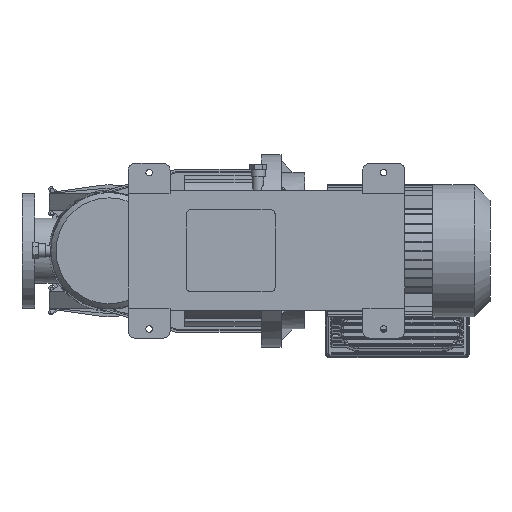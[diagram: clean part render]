
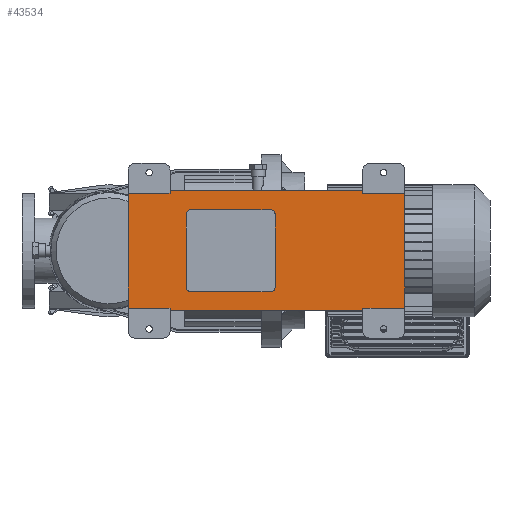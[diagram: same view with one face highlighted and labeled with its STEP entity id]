
A CAD part, front view. The second image highlights one B-rep face of the part: STEP entity #43534.
In plain terms, the highlighted planar face has unit normal (0, -1, 0).
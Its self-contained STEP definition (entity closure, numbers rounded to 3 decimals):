
#3443=LINE('',#69402,#6460);
#3451=LINE('',#69419,#6468);
#3458=LINE('',#69433,#6475);
#3477=LINE('',#69474,#6494);
#3487=LINE('',#69494,#6504);
#3488=LINE('',#69499,#6505);
#3489=LINE('',#69503,#6506);
#3490=LINE('',#69507,#6507);
#3491=LINE('',#69510,#6508);
#3492=LINE('',#69512,#6509);
#3493=LINE('',#69513,#6510);
#3494=LINE('',#69515,#6511);
#3495=LINE('',#69516,#6512);
#3496=LINE('',#69518,#6513);
#3497=LINE('',#69519,#6514);
#3498=LINE('',#69521,#6515);
#6460=VECTOR('',#54343,1000.);
#6468=VECTOR('',#54353,1000.);
#6475=VECTOR('',#54362,1000.);
#6494=VECTOR('',#54389,1000.);
#6504=VECTOR('',#54403,1000.);
#6505=VECTOR('',#54406,1000.);
#6506=VECTOR('',#54409,1000.);
#6507=VECTOR('',#54412,1000.);
#6508=VECTOR('',#54415,1000.);
#6509=VECTOR('',#54416,1000.);
#6510=VECTOR('',#54417,1000.);
#6511=VECTOR('',#54418,1000.);
#6512=VECTOR('',#54419,1000.);
#6513=VECTOR('',#54420,1000.);
#6514=VECTOR('',#54421,1000.);
#6515=VECTOR('',#54422,1000.);
#13371=ORIENTED_EDGE('',*,*,#24267,.T.);
#13372=ORIENTED_EDGE('',*,*,#24268,.T.);
#13373=ORIENTED_EDGE('',*,*,#24269,.T.);
#13374=ORIENTED_EDGE('',*,*,#24270,.T.);
#13375=ORIENTED_EDGE('',*,*,#24271,.T.);
#13376=ORIENTED_EDGE('',*,*,#24272,.T.);
#13377=ORIENTED_EDGE('',*,*,#24273,.T.);
#13378=ORIENTED_EDGE('',*,*,#24274,.T.);
#13379=ORIENTED_EDGE('',*,*,#24275,.T.);
#13380=ORIENTED_EDGE('',*,*,#24276,.T.);
#13381=ORIENTED_EDGE('',*,*,#24227,.F.);
#13382=ORIENTED_EDGE('',*,*,#24277,.T.);
#13383=ORIENTED_EDGE('',*,*,#24278,.T.);
#13384=ORIENTED_EDGE('',*,*,#24256,.T.);
#13385=ORIENTED_EDGE('',*,*,#24279,.T.);
#13386=ORIENTED_EDGE('',*,*,#24280,.T.);
#13387=ORIENTED_EDGE('',*,*,#24219,.F.);
#13388=ORIENTED_EDGE('',*,*,#24281,.T.);
#13389=ORIENTED_EDGE('',*,*,#24282,.T.);
#13390=ORIENTED_EDGE('',*,*,#24234,.T.);
#24219=EDGE_CURVE('',#29996,#29997,#3443,.T.);
#24227=EDGE_CURVE('',#30004,#30005,#3451,.T.);
#24234=EDGE_CURVE('',#30011,#30010,#3458,.T.);
#24256=EDGE_CURVE('',#30029,#30028,#3477,.T.);
#24267=EDGE_CURVE('',#30037,#30038,#3487,.T.);
#24268=EDGE_CURVE('',#30038,#30039,#33211,.T.);
#24269=EDGE_CURVE('',#30039,#30040,#3488,.T.);
#24270=EDGE_CURVE('',#30040,#30041,#33212,.T.);
#24271=EDGE_CURVE('',#30041,#30042,#3489,.T.);
#24272=EDGE_CURVE('',#30042,#30043,#33213,.T.);
#24273=EDGE_CURVE('',#30043,#30044,#3490,.T.);
#24274=EDGE_CURVE('',#30044,#30037,#33214,.T.);
#24275=EDGE_CURVE('',#30010,#30045,#3491,.T.);
#24276=EDGE_CURVE('',#30045,#30005,#3492,.T.);
#24277=EDGE_CURVE('',#30004,#30046,#3493,.T.);
#24278=EDGE_CURVE('',#30046,#30029,#3494,.T.);
#24279=EDGE_CURVE('',#30028,#30047,#3495,.T.);
#24280=EDGE_CURVE('',#30047,#29997,#3496,.T.);
#24281=EDGE_CURVE('',#29996,#30048,#3497,.T.);
#24282=EDGE_CURVE('',#30048,#30011,#3498,.T.);
#29996=VERTEX_POINT('',#69401);
#29997=VERTEX_POINT('',#69403);
#30004=VERTEX_POINT('',#69418);
#30005=VERTEX_POINT('',#69420);
#30010=VERTEX_POINT('',#69432);
#30011=VERTEX_POINT('',#69434);
#30028=VERTEX_POINT('',#69473);
#30029=VERTEX_POINT('',#69475);
#30037=VERTEX_POINT('',#69495);
#30038=VERTEX_POINT('',#69496);
#30039=VERTEX_POINT('',#69498);
#30040=VERTEX_POINT('',#69500);
#30041=VERTEX_POINT('',#69502);
#30042=VERTEX_POINT('',#69504);
#30043=VERTEX_POINT('',#69506);
#30044=VERTEX_POINT('',#69508);
#30045=VERTEX_POINT('',#69511);
#30046=VERTEX_POINT('',#69514);
#30047=VERTEX_POINT('',#69517);
#30048=VERTEX_POINT('',#69520);
#33211=CIRCLE('',#46937,10.);
#33212=CIRCLE('',#46938,10.);
#33213=CIRCLE('',#46939,10.);
#33214=CIRCLE('',#46940,10.);
#35836=EDGE_LOOP('',(#13371,#13372,#13373,#13374,#13375,#13376,#13377,#13378));
#35837=EDGE_LOOP('',(#13379,#13380,#13381,#13382,#13383,#13384,#13385,#13386,
#13387,#13388,#13389,#13390));
#39166=FACE_BOUND('',#35836,.T.);
#39167=FACE_BOUND('',#35837,.T.);
#42034=PLANE('',#46936);
#43534=ADVANCED_FACE('',(#39166,#39167),#42034,.F.);
#46936=AXIS2_PLACEMENT_3D('',#69493,#54401,#54402);
#46937=AXIS2_PLACEMENT_3D('',#69497,#54404,#54405);
#46938=AXIS2_PLACEMENT_3D('',#69501,#54407,#54408);
#46939=AXIS2_PLACEMENT_3D('',#69505,#54410,#54411);
#46940=AXIS2_PLACEMENT_3D('',#69509,#54413,#54414);
#54343=DIRECTION('',(1.,0.,0.));
#54353=DIRECTION('',(-1.,0.,0.));
#54362=DIRECTION('',(0.,0.,-1.));
#54389=DIRECTION('',(0.,0.,1.));
#54401=DIRECTION('',(0.,1.,0.));
#54402=DIRECTION('',(0.,0.,1.));
#54403=DIRECTION('',(1.,0.,0.));
#54404=DIRECTION('',(0.,1.,0.));
#54405=DIRECTION('',(0.,0.,1.));
#54406=DIRECTION('',(0.,0.,-1.));
#54407=DIRECTION('',(0.,1.,0.));
#54408=DIRECTION('',(0.,0.,1.));
#54409=DIRECTION('',(-1.,0.,0.));
#54410=DIRECTION('',(0.,1.,0.));
#54411=DIRECTION('',(0.,0.,1.));
#54412=DIRECTION('',(0.,0.,1.));
#54413=DIRECTION('',(0.,1.,0.));
#54414=DIRECTION('',(0.,0.,1.));
#54415=DIRECTION('',(1.,0.,0.));
#54416=DIRECTION('',(0.,0.,-1.));
#54417=DIRECTION('',(0.,0.,1.));
#54418=DIRECTION('',(1.,0.,0.));
#54419=DIRECTION('',(-1.,0.,0.));
#54420=DIRECTION('',(0.,0.,1.));
#54421=DIRECTION('',(0.,0.,-1.));
#54422=DIRECTION('',(-1.,0.,0.));
#69401=CARTESIAN_POINT('',(-185.,0.,115.));
#69402=CARTESIAN_POINT('',(-265.,0.,115.));
#69403=CARTESIAN_POINT('',(185.,0.,115.));
#69418=CARTESIAN_POINT('',(185.,0.,-115.));
#69419=CARTESIAN_POINT('',(265.,0.,-115.));
#69420=CARTESIAN_POINT('',(-185.,0.,-115.));
#69432=CARTESIAN_POINT('',(-265.,0.,-110.));
#69433=CARTESIAN_POINT('',(-265.,0.,0.));
#69434=CARTESIAN_POINT('',(-265.,0.,110.));
#69473=CARTESIAN_POINT('',(265.,0.,110.));
#69474=CARTESIAN_POINT('',(265.,0.,0.));
#69475=CARTESIAN_POINT('',(265.,0.,-110.));
#69493=CARTESIAN_POINT('',(0.,0.,0.));
#69494=CARTESIAN_POINT('',(-154.,0.,79.));
#69495=CARTESIAN_POINT('',(-144.,0.,79.));
#69496=CARTESIAN_POINT('',(7.,0.,79.));
#69497=CARTESIAN_POINT('',(7.,0.,69.));
#69498=CARTESIAN_POINT('',(17.,0.,69.));
#69499=CARTESIAN_POINT('',(17.,0.,79.));
#69500=CARTESIAN_POINT('',(17.,0.,-69.));
#69501=CARTESIAN_POINT('',(7.,0.,-69.));
#69502=CARTESIAN_POINT('',(7.,0.,-79.));
#69503=CARTESIAN_POINT('',(17.,0.,-79.));
#69504=CARTESIAN_POINT('',(-144.,0.,-79.));
#69505=CARTESIAN_POINT('',(-144.,0.,-69.));
#69506=CARTESIAN_POINT('',(-154.,0.,-69.));
#69507=CARTESIAN_POINT('',(-154.,0.,-79.));
#69508=CARTESIAN_POINT('',(-154.,0.,69.));
#69509=CARTESIAN_POINT('',(-144.,0.,69.));
#69510=CARTESIAN_POINT('',(-265.,0.,-110.));
#69511=CARTESIAN_POINT('',(-185.,0.,-110.));
#69512=CARTESIAN_POINT('',(-185.,0.,-110.));
#69513=CARTESIAN_POINT('',(185.,0.,-167.5));
#69514=CARTESIAN_POINT('',(185.,0.,-110.));
#69515=CARTESIAN_POINT('',(0.,0.,-110.));
#69516=CARTESIAN_POINT('',(0.,0.,110.));
#69517=CARTESIAN_POINT('',(185.,0.,110.));
#69518=CARTESIAN_POINT('',(185.,0.,110.));
#69519=CARTESIAN_POINT('',(-185.,0.,167.5));
#69520=CARTESIAN_POINT('',(-185.,0.,110.));
#69521=CARTESIAN_POINT('',(-185.,0.,110.));
